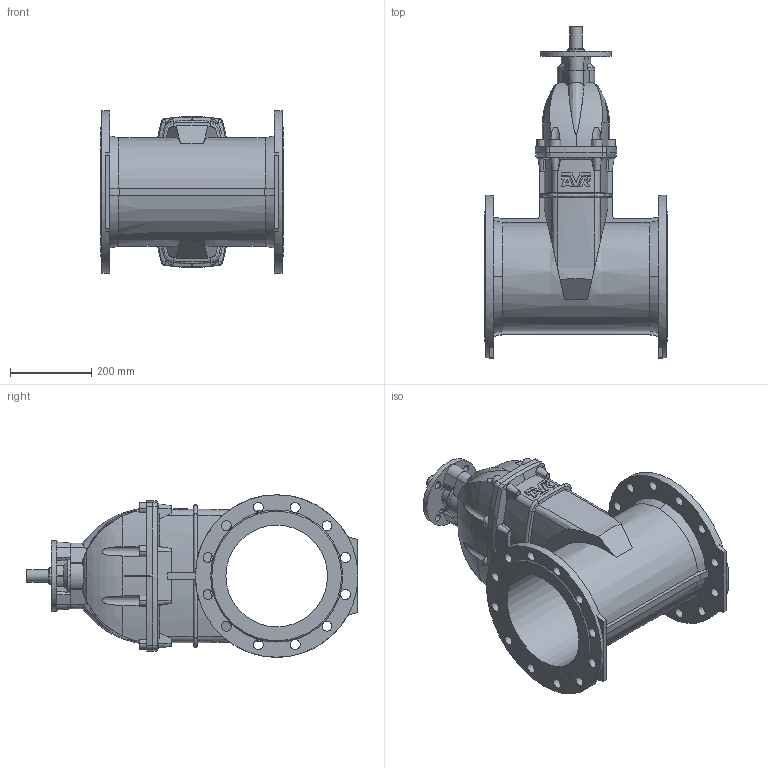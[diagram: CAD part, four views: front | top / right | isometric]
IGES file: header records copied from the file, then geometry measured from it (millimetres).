
Start section: SolidWorks IGES file using analytic representation for surfaces
Global section: file name: D:\Arthur\For Will\Finished\O_15_72_DN250 without AUMA\O_15_72_DN250_00_iges.IGS; native system: SolidWorks 2012; preprocessor: SolidWorks 2012; author: aran; date: 150611.115844; units: millimetre
Bounding box: 450 x 817 x 400 mm (x, y, z)
Surface area: 1522619.8 mm2 (no closed solid volume)
Topology: 0 solids, 0 shells, 352 faces, 1946 edges, 1864 vertices
Faces by surface type: revolution 221, bspline 131
